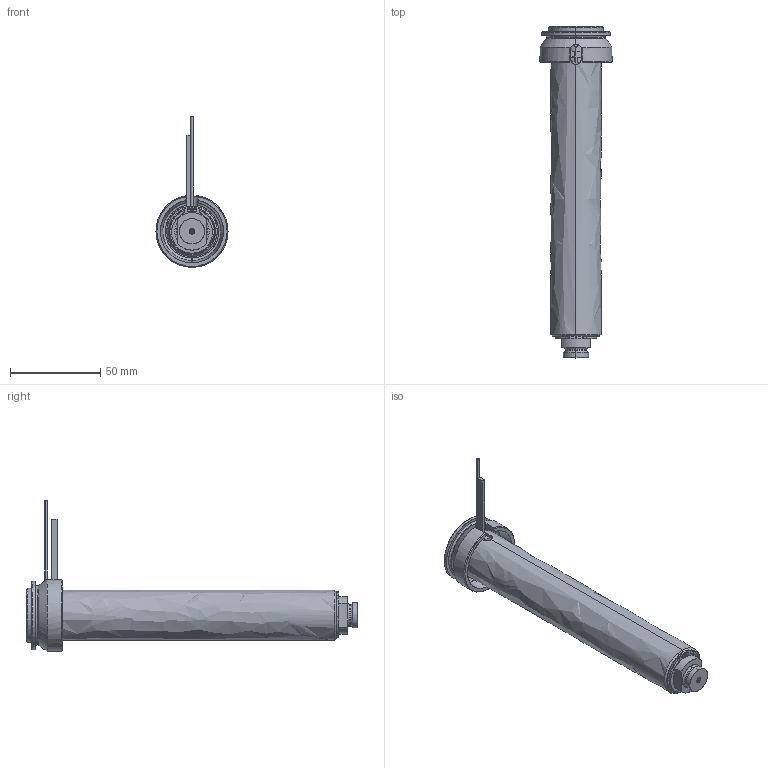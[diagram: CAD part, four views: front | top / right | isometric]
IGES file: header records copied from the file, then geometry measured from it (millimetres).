
Start section: SolidWorks IGES file using analytic representation for surfaces
Global section: file name: C:\Documents and Settings\ws-20\Desktop\TEM\UGEP4104-M-A-0 [Øf-1.31 P-0 ØC-09].IGS; native system: SolidWorks 2012; preprocessor: SolidWorks 2012; author: ws-20; date: 120426.085134; units: millimetre
Bounding box: 40 x 184.25 x 83.65 mm (x, y, z)
Surface area: 54417.3 mm2 (no closed solid volume)
Topology: 0 solids, 0 shells, 113 faces, 1870 edges, 1870 vertices
Faces by surface type: revolution 64, bspline 49
